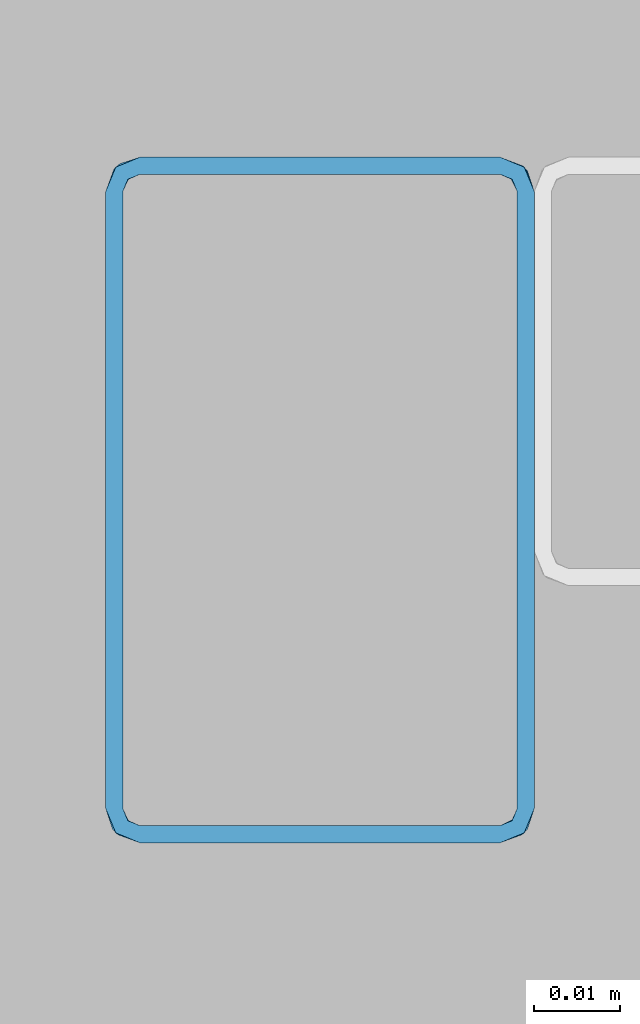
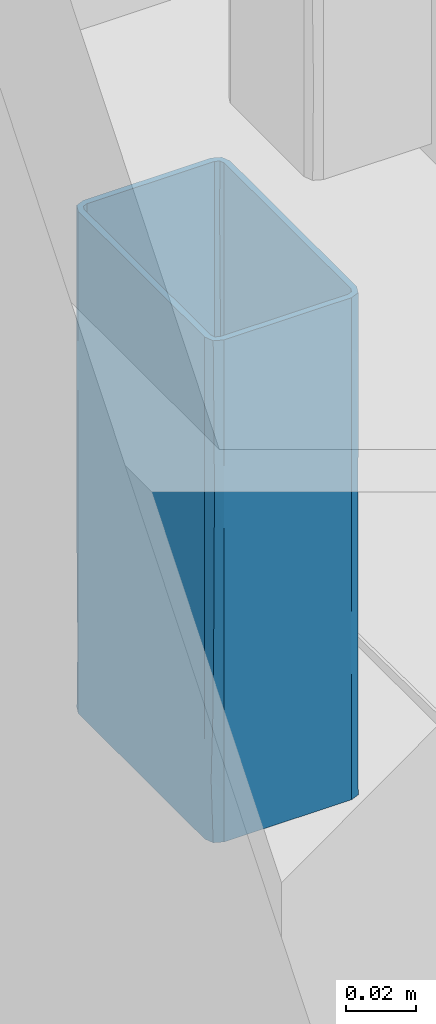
# One storey, part 136 of 186: 1 beam.
"""IFC4X3_ADD2 building model written with IfcOpenShell, lengths in millimetres."""

from ifc_helpers import new_model, si_unit, direction, frame, origin_with_axes, place, context, subcontext, project, spatial, polygons, element, save


model = new_model("IFC4X3_ADD2")

# Units and contexts
model_context = context("Model", 3, precision=1e-05, world=origin_with_axes(), true_north=direction((0.0, 1.0)))
body_context = subcontext(model_context, "Body", "Model", "MODEL_VIEW")
ifc_project = project(units=[si_unit("LENGTHUNIT", "METRE", prefix="MILLI"), si_unit("AREAUNIT", "SQUARE_METRE"), si_unit("VOLUMEUNIT", "CUBIC_METRE"), si_unit("PLANEANGLEUNIT", "RADIAN"), si_unit("TIMEUNIT", "SECOND"), si_unit("MASSUNIT", "GRAM")], contexts=[model_context])

# Site, building, storey
site_placement = place(None, origin_with_axes())
site = spatial("IfcSite", under=ifc_project, at=site_placement, Name="Site", CompositionType="ELEMENT")
building_placement = place(site_placement, origin_with_axes())
building = spatial("IfcBuilding", under=site, at=building_placement, Name="IFC Building Story")
storey_placement = place(building_placement, frame((0.0, 0.0, 4370.0), z_axis=(0.0, 0.0, 1.0), x_axis=(1.0, 0.0, 0.0)))
storey = spatial("IfcBuildingStorey", under=building, at=storey_placement, Name="ETAGE 10 (1)", Elevation=4370.0)

# Beam
beam_placement = place(storey_placement, frame((0.0, 0.0, -4370.0), z_axis=(0.0, 0.0, 1.0), x_axis=(1.0, 0.0, 0.0)))
element("IfcBeam", 1, at=beam_placement, inside=storey, Name="PS9", ObjectType="K50*80*2", context=body_context, shape_type="Tessellation", body=[
    polygons([(33263.18769887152, -14300.99999267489, 7529.59861931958), (33261.18769887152, -14300.99999267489, 7529.59861931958), (33263.77348530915, -14302.41420623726, 7529.59861931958), (33261.18769887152, -14228.99999267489, 7529.59861931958), (33263.18769887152, -14228.99999267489, 7529.59861931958), (33263.77348530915, -14227.58577911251, 7529.59861931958), (33262.35927174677, -14226.17156555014, 7529.59861931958), (33265.18769887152, -14224.99999267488, 7529.59861931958), (33265.18769887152, -14226.99999267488, 7529.59861931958), (33307.18769887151, -14226.99999267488, 7529.59861931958), (33307.18769887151, -14224.99999267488, 7529.59861931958), (33308.60191243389, -14227.58577911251, 7529.59861931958), (33310.01612599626, -14226.17156555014, 7529.59861931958), (33311.18769887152, -14228.99999267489, 7529.59861931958), (33309.18769887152, -14228.99999267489, 7529.59861931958), (33309.18769887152, -14300.99999267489, 7529.59861931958), (33311.18769887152, -14300.99999267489, 7529.59861931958), (33308.60191243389, -14302.41420623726, 7529.59861931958), (33310.01612599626, -14303.82841979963, 7529.59861931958), (33307.18769887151, -14304.99999267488, 7529.59861931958), (33307.18769887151, -14302.99999267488, 7529.59861931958), (33265.18769887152, -14304.99999267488, 7529.59861931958), (33265.18769887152, -14302.99999267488, 7529.59861931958), (33262.35927174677, -14303.82841979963, 7529.59861931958), (33309.18769887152, -14300.99999267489, 7355.21861931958), (33311.18769887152, -14300.99999267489, 7355.21861931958), (33308.60191243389, -14302.41420623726, 7355.21861931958), (33311.18769887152, -14228.99999267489, 7355.21861931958), (33309.18769887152, -14228.99999267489, 7355.21861931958), (33308.60191243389, -14227.58577911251, 7355.21861931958), (33310.01612599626, -14226.17156555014, 7355.21861931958), (33307.18769887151, -14224.99999267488, 7355.21861931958), (33307.18769887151, -14226.99999267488, 7355.21861931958), (33265.18769887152, -14226.99999267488, 7355.21861931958), (33265.18769887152, -14224.99999267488, 7355.21861931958), (33263.77348530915, -14227.58577911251, 7355.21861931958), (33262.35927174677, -14226.17156555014, 7355.21861931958), (33261.18769887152, -14228.99999267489, 7355.21861931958), (33263.18769887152, -14228.99999267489, 7355.21861931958), (33263.18769887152, -14300.99999267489, 7355.21861931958), (33261.18769887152, -14300.99999267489, 7355.21861931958), (33263.77348530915, -14302.41420623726, 7355.21861931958), (33262.35927174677, -14303.82841979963, 7355.21861931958), (33265.18769887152, -14304.99999267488, 7355.21861931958), (33265.18769887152, -14302.99999267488, 7355.21861931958), (33307.18769887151, -14304.99999267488, 7355.21861931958), (33307.18769887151, -14302.99999267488, 7355.21861931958), (33310.01612599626, -14303.82841979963, 7355.21861931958), (33261.18769887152, -14228.99999267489, 7512.14009673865), (33261.18769887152, -14228.99999267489, 7486.003617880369), (33261.18769887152, -14228.99999267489, 7464.206120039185), (33261.18769887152, -14228.99999267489, 7442.408619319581), (33261.18769887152, -14228.99999267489, 7420.611118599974), (33261.18769887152, -14228.99999267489, 7398.813620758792), (33261.18769887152, -14228.99999267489, 7372.677141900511), (33261.18769887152, -14300.99999267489, 7390.135664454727), (33261.18769887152, -14300.99999267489, 7407.491574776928), (33261.18769887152, -14300.99999267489, 7433.628051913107), (33261.18769887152, -14300.99999267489, 7459.764529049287), (33261.18769887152, -14300.99999267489, 7477.223052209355), (33261.18769887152, -14300.99999267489, 7494.681574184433), (33262.27682427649, -14303.74349574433, 7398.813621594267), (33265.18769887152, -14304.99999267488, 7420.611119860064), (33262.48911275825, -14303.95255647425, 7431.509871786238), (33265.18769887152, -14304.99999267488, 7372.677140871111), (33261.94732121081, -14303.34519045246, 7376.936876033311), (33262.53256876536, -14303.99169522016, 7499.071858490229), (33265.18769887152, -14304.99999267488, 7442.408619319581), (33265.18769887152, -14304.99999267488, 7512.14009776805), (33262.55784567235, -14304.01393895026, 7456.068339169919), (33265.18769887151, -14304.99999267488, 7398.813618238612), (33262.62462266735, -14304.07092744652, 7477.57424630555), (33265.18769887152, -14304.99999267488, 7486.00362040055), (33265.18769887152, -14304.99999267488, 7464.206118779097), (33307.18769887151, -14304.99999267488, 7372.677142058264), (33307.18769887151, -14304.99999267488, 7398.813619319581), (33307.18769887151, -14304.99999267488, 7420.611119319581), (33307.18769887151, -14304.99999267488, 7442.408619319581), (33307.18769887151, -14304.99999267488, 7464.20611931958), (33307.18769887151, -14304.99999267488, 7486.00361931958), (33307.18769887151, -14304.99999267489, 7512.140096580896), (33311.18769887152, -14300.99999267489, 7390.135665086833), (33309.84282889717, -14303.9916952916, 7385.745384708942), (33310.09857345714, -14303.7434957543, 7486.00362096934), (33309.88628500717, -14303.95255645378, 7453.307371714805), (33311.18769887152, -14300.99999267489, 7477.325664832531), (33311.18769887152, -14300.99999267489, 7494.681573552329), (33310.42807649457, -14303.34519050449, 7507.880364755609), (33309.81755215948, -14304.01393887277, 7428.748906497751), (33311.18769887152, -14300.99999267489, 7425.052710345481), (33311.18769887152, -14300.99999267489, 7451.189187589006), (33309.7507753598, -14304.07092720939, 7407.242998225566), (33311.18769887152, -14300.99999267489, 7407.594187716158), (33311.18769887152, -14228.99999267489, 7390.135664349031), (33311.18769887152, -14228.99999267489, 7416.272141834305), (33311.18769887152, -14228.99999267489, 7442.408619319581), (33311.18769887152, -14228.99999267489, 7464.206119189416), (33311.18769887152, -14228.99999267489, 7486.003619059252), (33311.18769887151, -14228.99999267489, 7512.140096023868), (33310.17940139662, -14226.344862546, 7499.071859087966), (33310.03562467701, -14226.19119958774, 7472.548605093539), (33307.18769887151, -14224.99999267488, 7494.681574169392), (33310.0161261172, -14226.17156567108, 7398.813623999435), (33310.41784628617, -14226.64072421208, 7377.016122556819), (33309.8417820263, -14226.00736128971, 7446.696292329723), (33309.91410073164, -14226.07309450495, 7422.749377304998), (33307.18769887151, -14224.99999267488, 7433.628050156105), (33307.18769887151, -14224.99999267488, 7390.135664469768), (33307.18769887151, -14224.99999267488, 7407.4915727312), (33307.18769887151, -14224.99999267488, 7459.764527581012), (33265.18769887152, -14224.99999267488, 7390.135665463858), (33265.18769887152, -14224.99999267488, 7407.491574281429), (33265.18769887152, -14224.99999267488, 7433.628051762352), (33265.18769887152, -14224.99999267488, 7459.764529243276), (33265.18769887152, -14224.99999267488, 7477.223051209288), (33265.18769887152, -14224.99999267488, 7494.681574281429), (33262.44419583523, -14226.08911804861, 7398.813622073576), (33262.2351350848, -14226.30140654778, 7431.509872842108), (33262.84250110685, -14225.75961500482, 7376.93687648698), (33262.19599633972, -14226.34486255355, 7499.071858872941), (33262.17375261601, -14226.37013945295, 7456.068339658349), (33262.11676412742, -14226.43691643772, 7477.574246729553), (33265.18769887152, -14226.99999267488, 7480.218460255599), (33263.77348535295, -14227.5857790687, 7486.390980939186), (33263.77348534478, -14227.58577907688, 7473.185613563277), (33263.761337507, -14227.5980321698, 7386.677759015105), (33263.69169343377, -14227.67260134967, 7373.73618015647), (33265.18769887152, -14226.99999267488, 7374.123539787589), (33263.18769887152, -14228.99999267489, 7420.611119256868), (33263.18769887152, -14228.99999267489, 7409.712369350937), (33263.73129899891, -14227.62926315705, 7415.161746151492), (33263.75107338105, -14227.6085519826, 7449.355862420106), (33263.18769887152, -14228.99999267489, 7442.408619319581), (33263.90134918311, -14227.46855397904, 7438.435819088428), (33265.18769887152, -14226.99999267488, 7455.528380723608), (33263.84725054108, -14227.51567523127, 7461.21910020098), (33265.18769887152, -14226.99999267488, 7393.028460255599), (33263.18769887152, -14228.99999267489, 7367.563659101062), (33263.18769887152, -14228.99999267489, 7517.253579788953), (33263.18769887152, -14228.99999267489, 7492.56350022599), (33263.18769887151, -14228.99999267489, 7480.218460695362), (33265.18769887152, -14226.99999267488, 7492.563500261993), (33263.82148151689, -14227.53935920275, 7498.73602044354), (33263.84133664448, -14227.5210373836, 7398.499702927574), (33263.18769887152, -14228.99999267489, 7398.813619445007), (33265.18769887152, -14226.99999267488, 7517.253579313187), (33263.77348533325, -14227.5857790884, 7511.081059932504), (33265.18769887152, -14226.99999267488, 7504.908539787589), (33263.18769887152, -14228.99999267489, 7504.908540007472), (33263.18769887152, -14228.99999267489, 7379.908698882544), (33263.18769887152, -14228.99999267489, 7461.313540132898), (33265.18769887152, -14226.99999267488, 7467.873420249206), (33265.18769887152, -14226.99999267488, 7411.933380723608), (33265.18769887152, -14226.99999267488, 7430.838301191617), (33263.68995856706, -14227.67455916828, 7427.620743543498), (33263.18769887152, -14228.99999267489, 7431.50986941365), (33265.18769887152, -14226.99999267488, 7443.183341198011), (33307.18769887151, -14226.99999267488, 7367.56365934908), (33307.18769887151, -14226.99999267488, 7377.016119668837), (33307.18769887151, -14226.99999267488, 7387.91486956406), (33307.18769887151, -14226.99999267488, 7398.813619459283), (33307.18769887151, -14226.99999267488, 7409.712369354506), (33307.18769887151, -14226.99999267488, 7420.611119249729), (33307.18769887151, -14226.99999267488, 7431.509869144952), (33307.18769887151, -14226.99999267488, 7442.408619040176), (33307.18769887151, -14226.99999267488, 7453.307368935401), (33307.18769887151, -14226.99999267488, 7464.206118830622), (33307.18769887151, -14226.99999267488, 7475.104868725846), (33307.18769887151, -14226.99999267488, 7486.003619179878), (33307.18769887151, -14226.99999267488, 7504.90853981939), (33307.18769887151, -14226.99999267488, 7517.25357984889), (33308.49895586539, -14227.48982543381, 7405.576373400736), (33308.53725077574, -14227.52394739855, 7393.364245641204), (33308.57794189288, -14227.56220814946, 7448.655924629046), (33308.68967101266, -14227.67935658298, 7461.088047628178), (33308.4073444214, -14227.41491705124, 7382.780985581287), (33309.18769887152, -14228.99999267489, 7510.693698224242), (33308.51509022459, -14227.50398726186, 7511.081060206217), (33309.18769887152, -14228.99999267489, 7367.563658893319), (33309.18769887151, -14228.99999267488, 7404.598778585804), (33309.18769887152, -14228.99999267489, 7392.253739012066), (33308.67085384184, -14227.658258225, 7423.116339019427), (33309.18769887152, -14228.99999267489, 7379.908698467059), (33308.60191241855, -14227.58577909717, 7372.289889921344), (33308.5896593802, -14227.5736313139, 7498.139482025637), (33308.61448330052, -14227.5984627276, 7436.065234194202), (33309.18769887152, -14228.99999267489, 7429.288858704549), (33309.18769887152, -14228.99999267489, 7416.943818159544), (33309.18769887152, -14228.99999267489, 7441.633898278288), (33309.18769887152, -14228.99999267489, 7491.788778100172), (33308.66517873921, -14227.65201150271, 7480.554245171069), (33309.18769887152, -14228.99999267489, 7472.8838579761), (33309.18769887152, -14228.99999267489, 7453.978937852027), (33309.18769887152, -14300.99999267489, 7367.563658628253), (33309.18769887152, -14300.99999267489, 7377.016119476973), (33309.18769887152, -14300.99999267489, 7387.9148689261), (33309.18769887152, -14300.99999267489, 7398.813618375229), (33309.18769887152, -14300.99999267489, 7409.712369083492), (33309.18769887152, -14300.99999267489, 7420.61111853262), (33309.18769887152, -14300.99999267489, 7431.509867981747), (33309.18769887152, -14300.99999267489, 7442.408618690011), (33309.18769887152, -14300.99999267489, 7453.307369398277), (33309.18769887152, -14300.99999267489, 7464.206118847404), (33309.18769887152, -14300.99999267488, 7475.104868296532), (33309.18769887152, -14300.99999267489, 7486.003619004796), (33309.18769887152, -14300.99999267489, 7504.908540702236), (33309.18769887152, -14300.99999267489, 7517.253580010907), (33308.69786612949, -14302.3112496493, 7405.576373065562), (33308.66374415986, -14302.34954456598, 7393.364245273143), (33308.62548341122, -14302.39023568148, 7448.65592429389), (33308.50833497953, -14302.50196480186, 7461.088047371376), (33308.77277449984, -14302.21963821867, 7382.780985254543), (33307.18769887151, -14302.99999267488, 7510.693698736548), (33308.68370428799, -14302.32738402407, 7511.081060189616), (33307.18769887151, -14302.99999267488, 7367.563659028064), (33307.18769887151, -14302.99999267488, 7404.598778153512), (33307.18769887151, -14302.99999267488, 7392.25373844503), (33308.52943334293, -14302.48314762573, 7423.116338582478), (33308.60191244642, -14302.41420622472, 7372.289889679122), (33308.61406023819, -14302.40195317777, 7498.139481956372), (33308.58922884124, -14302.42677708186, 7436.065233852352), (33307.18769887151, -14302.99999267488, 7379.908698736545), (33307.18769887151, -14302.99999267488, 7429.288857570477), (33307.18769887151, -14302.99999267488, 7416.943817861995), (33307.18769887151, -14302.99999267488, 7441.633897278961), (33307.18769887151, -14302.99999267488, 7491.788778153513), (33308.53568005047, -14302.4774725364, 7480.554245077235), (33307.18769887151, -14302.99999267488, 7472.883857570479), (33307.18769887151, -14302.99999267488, 7453.978936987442), (33265.18769887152, -14302.99999267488, 7367.563659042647), (33265.18769887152, -14302.99999267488, 7379.908698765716), (33265.18769887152, -14302.99999267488, 7392.253738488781), (33265.18769887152, -14302.99999267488, 7404.598778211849), (33265.18769887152, -14302.99999267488, 7416.943817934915), (33265.18769887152, -14302.99999267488, 7429.288857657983), (33265.18769887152, -14302.99999267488, 7441.633897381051), (33265.18769887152, -14302.99999267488, 7453.978937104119), (33265.18769887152, -14302.99999267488, 7472.883857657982), (33265.18769887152, -14302.99999267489, 7491.788778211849), (33265.18769887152, -14302.99999267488, 7510.693698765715), (33263.76133749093, -14302.40195316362, 7498.139482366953), (33263.69169344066, -14302.32738400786, 7511.081060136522), (33263.84725044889, -14302.48431003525, 7423.598142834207), (33263.75107328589, -14302.39143326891, 7435.461379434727), (33263.77348535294, -14302.41420628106, 7373.736182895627), (33263.77348537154, -14302.41420629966, 7386.941548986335), (33263.18769887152, -14300.99999267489, 7379.908699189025), (33263.18769887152, -14300.99999267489, 7464.20611964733), (33263.18769887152, -14300.99999267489, 7475.104869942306), (33263.73129892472, -14302.3707221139, 7469.655496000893), (33263.18769887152, -14300.99999267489, 7517.253579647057), (33263.18769887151, -14300.99999267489, 7367.563659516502), (33263.90134900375, -14302.53143122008, 7446.381423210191), (33263.84133657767, -14302.47894790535, 7486.317539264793), (33263.18769887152, -14300.99999267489, 7486.003619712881), (33263.18769887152, -14300.99999267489, 7392.253738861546), (33263.7103880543, -14302.34815911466, 7398.896110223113), (33263.18769887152, -14300.99999267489, 7504.908539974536), (33263.76900637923, -14302.40971307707, 7410.853040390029), (33263.68995852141, -14302.32542612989, 7457.196499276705), (33263.18769887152, -14300.99999267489, 7453.307369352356), (33263.18769887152, -14300.99999267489, 7442.40861958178), (33263.18769887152, -14300.99999267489, 7423.503699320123), (33263.18769887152, -14300.99999267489, 7404.598779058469)], [[[1, 2, 3]], [[2, 1, 4]], [[5, 4, 1]], [[6, 4, 5]], [[7, 4, 6]], [[6, 8, 7]], [[6, 9, 8]], [[8, 9, 10]], [[10, 11, 8]], [[10, 12, 11]], [[11, 12, 13]], [[14, 13, 12]], [[14, 12, 15]], [[14, 15, 16]], [[16, 17, 14]], [[18, 17, 16]], [[17, 18, 19]], [[18, 20, 19]], [[21, 20, 18]], [[20, 21, 22]], [[23, 22, 21]], [[3, 22, 23]], [[22, 3, 24]], [[3, 2, 24]], [[25, 26, 27]], [[26, 25, 28]], [[29, 28, 25]], [[30, 28, 29]], [[31, 28, 30]], [[30, 32, 31]], [[30, 33, 32]], [[32, 33, 34]], [[34, 35, 32]], [[34, 36, 35]], [[35, 36, 37]], [[38, 37, 36]], [[38, 36, 39]], [[38, 39, 40]], [[40, 41, 38]], [[42, 41, 40]], [[41, 42, 43]], [[42, 44, 43]], [[45, 44, 42]], [[44, 45, 46]], [[47, 46, 45]], [[27, 46, 47]], [[46, 27, 48]], [[27, 26, 48]], [[55, 38, 41]], [[55, 41, 56]], [[56, 57, 54]], [[56, 54, 55]], [[57, 58, 53]], [[57, 53, 54]], [[58, 52, 53]], [[58, 59, 51]], [[58, 51, 52]], [[60, 61, 50]], [[50, 51, 59]], [[50, 59, 60]], [[61, 49, 50]], [[61, 2, 4]], [[61, 4, 49]], [[62, 63, 64]], [[65, 62, 66]], [[2, 61, 67]], [[64, 63, 68]], [[69, 22, 24]], [[43, 44, 65]], [[62, 56, 66]], [[70, 59, 58]], [[57, 56, 62]], [[71, 63, 62, 65]], [[24, 2, 67]], [[59, 72, 61, 60]], [[41, 43, 66]], [[58, 64, 70]], [[64, 57, 62]], [[73, 69, 67]], [[64, 68, 70]], [[64, 58, 57]], [[70, 68, 74]], [[73, 67, 72]], [[41, 66, 56]], [[65, 66, 43]], [[24, 67, 69]], [[72, 59, 70]], [[72, 67, 61]], [[72, 74, 73]], [[74, 72, 70]], [[65, 44, 46]], [[65, 46, 75]], [[75, 76, 71]], [[75, 71, 65]], [[76, 77, 63]], [[76, 63, 71]], [[77, 78, 68]], [[77, 68, 63]], [[78, 79, 74]], [[78, 74, 68]], [[79, 80, 73]], [[79, 73, 74]], [[80, 81, 69]], [[80, 69, 73]], [[81, 20, 22]], [[81, 22, 69]], [[26, 82, 83]], [[80, 79, 84, 81]], [[85, 84, 79]], [[86, 87, 84]], [[85, 79, 78]], [[81, 84, 88]], [[84, 87, 88]], [[48, 26, 83]], [[89, 90, 91]], [[90, 92, 82, 93]], [[17, 19, 88]], [[91, 85, 89]], [[75, 83, 76]], [[85, 86, 84]], [[75, 46, 48]], [[19, 20, 81]], [[85, 78, 89]], [[85, 91, 86]], [[89, 78, 77]], [[76, 83, 92]], [[17, 88, 87]], [[81, 88, 19]], [[48, 83, 75]], [[92, 90, 89]], [[92, 83, 82]], [[92, 77, 76]], [[77, 92, 89]], [[82, 26, 28]], [[82, 28, 94]], [[94, 95, 93]], [[94, 93, 82]], [[95, 90, 93]], [[95, 96, 91]], [[95, 91, 90]], [[97, 98, 86]], [[97, 86, 91]], [[91, 96, 97]], [[98, 87, 86]], [[99, 14, 17]], [[99, 17, 87]], [[87, 98, 99]], [[99, 98, 100]], [[101, 102, 100]], [[103, 94, 104]], [[11, 13, 100]], [[31, 104, 28]], [[105, 106, 107]], [[108, 109, 103]], [[97, 105, 101]], [[13, 99, 100]], [[32, 108, 104]], [[101, 105, 110]], [[103, 104, 108]], [[106, 109, 107]], [[13, 14, 99]], [[110, 105, 107]], [[95, 103, 106]], [[95, 94, 103]], [[106, 96, 95]], [[102, 101, 110]], [[97, 96, 105]], [[106, 105, 96]], [[109, 106, 103]], [[101, 100, 98]], [[100, 102, 11]], [[28, 104, 94]], [[104, 31, 32]], [[101, 98, 97]], [[108, 32, 35]], [[108, 35, 111]], [[111, 112, 109]], [[111, 109, 108]], [[112, 113, 107]], [[112, 107, 109]], [[113, 114, 110]], [[113, 110, 107]], [[115, 116, 102]], [[102, 110, 114]], [[102, 114, 115]], [[116, 8, 11]], [[116, 11, 102]], [[117, 53, 118]], [[55, 117, 119]], [[8, 116, 120]], [[118, 53, 52]], [[49, 4, 7]], [[37, 38, 55]], [[117, 111, 119]], [[121, 114, 113]], [[112, 111, 117]], [[54, 53, 117, 55]], [[7, 8, 120]], [[114, 122, 116, 115]], [[35, 37, 119]], [[113, 118, 121]], [[118, 112, 117]], [[50, 49, 120]], [[118, 52, 121]], [[118, 113, 112]], [[121, 52, 51]], [[50, 120, 122]], [[35, 119, 111]], [[55, 119, 37]], [[7, 120, 49]], [[122, 114, 121]], [[122, 120, 116]], [[122, 51, 50]], [[51, 122, 121]], [[123, 124, 125]], [[126, 127, 128]], [[129, 130, 131]], [[132, 133, 134]], [[132, 135, 136]], [[126, 128, 137]], [[138, 39, 36]], [[6, 5, 139]], [[36, 127, 138]], [[125, 124, 140, 141]], [[142, 143, 124]], [[144, 145, 126]], [[142, 124, 123]], [[146, 147, 148]], [[140, 143, 149]], [[36, 34, 128]], [[146, 9, 6]], [[138, 127, 150]], [[147, 6, 139]], [[6, 147, 146]], [[143, 147, 149]], [[143, 142, 148]], [[149, 147, 139]], [[132, 151, 133]], [[152, 123, 125]], [[125, 141, 151]], [[126, 150, 127]], [[128, 127, 36]], [[126, 145, 150]], [[131, 153, 154]], [[124, 143, 140]], [[147, 143, 148]], [[130, 145, 144]], [[135, 152, 136]], [[144, 126, 137]], [[155, 131, 154]], [[144, 137, 153]], [[155, 129, 131]], [[144, 131, 130]], [[153, 131, 144]], [[156, 129, 155]], [[132, 134, 157]], [[135, 132, 157]], [[154, 134, 155]], [[151, 132, 136]], [[136, 125, 151]], [[125, 136, 152]], [[157, 134, 154]], [[133, 156, 134]], [[156, 155, 134]], [[158, 159, 128]], [[128, 34, 33]], [[128, 33, 158]], [[159, 160, 137]], [[159, 137, 128]], [[161, 162, 153]], [[161, 153, 137]], [[137, 160, 161]], [[163, 164, 154]], [[163, 154, 153]], [[153, 162, 163]], [[164, 165, 157]], [[164, 157, 154]], [[165, 166, 135]], [[165, 135, 157]], [[166, 167, 152]], [[166, 152, 135]], [[167, 168, 123]], [[167, 123, 152]], [[168, 169, 142]], [[168, 142, 123]], [[169, 170, 148]], [[169, 148, 142]], [[170, 171, 146]], [[170, 146, 148]], [[171, 10, 9]], [[171, 9, 146]], [[172, 161, 173]], [[166, 174, 175]], [[160, 159, 176]], [[177, 12, 178]], [[15, 12, 177]], [[30, 29, 179]], [[180, 173, 181]], [[172, 182, 162]], [[179, 183, 184]], [[170, 185, 178]], [[165, 186, 174]], [[170, 178, 171]], [[184, 159, 158]], [[158, 33, 30]], [[12, 10, 171]], [[178, 185, 177]], [[184, 183, 176]], [[30, 184, 158]], [[179, 184, 30]], [[160, 176, 173]], [[160, 173, 161]], [[180, 172, 173]], [[183, 181, 176]], [[187, 186, 182]], [[163, 162, 182, 164]], [[188, 182, 172]], [[187, 182, 188]], [[172, 180, 188]], [[186, 164, 182]], [[181, 173, 176]], [[186, 189, 174]], [[171, 178, 12]], [[190, 177, 185]], [[190, 185, 191]], [[185, 170, 169]], [[167, 166, 175, 168]], [[168, 191, 169]], [[191, 175, 192]], [[175, 174, 193]], [[175, 193, 192]], [[175, 191, 168]], [[169, 191, 185]], [[191, 192, 190]], [[193, 174, 189]], [[186, 187, 189]], [[184, 176, 159]], [[162, 161, 172]], [[166, 165, 174]], [[186, 165, 164]], [[179, 29, 25]], [[179, 25, 194]], [[194, 195, 183]], [[194, 183, 179]], [[195, 196, 181]], [[195, 181, 183]], [[197, 198, 180]], [[180, 181, 196]], [[180, 196, 197]], [[198, 199, 188]], [[198, 188, 180]], [[199, 200, 187]], [[199, 187, 188]], [[200, 201, 189]], [[200, 189, 187]], [[201, 202, 193]], [[201, 193, 189]], [[203, 204, 192]], [[192, 193, 202]], [[192, 202, 203]], [[204, 205, 190]], [[204, 190, 192]], [[205, 206, 177]], [[205, 177, 190]], [[207, 16, 15]], [[207, 15, 177]], [[177, 206, 207]], [[208, 197, 209]], [[202, 210, 211]], [[196, 195, 212]], [[213, 18, 214]], [[21, 18, 213]], [[27, 47, 215]], [[216, 209, 217]], [[208, 218, 198]], [[27, 215, 219]], [[206, 220, 214]], [[201, 221, 210]], [[222, 212, 219]], [[206, 214, 207]], [[194, 27, 219, 195]], [[194, 25, 27]], [[18, 16, 207]], [[214, 220, 213]], [[219, 215, 222]], [[196, 212, 209]], [[196, 209, 197]], [[216, 208, 209]], [[222, 217, 212]], [[223, 221, 218]], [[199, 198, 218, 200]], [[224, 218, 208]], [[223, 218, 224]], [[208, 216, 224]], [[221, 200, 218]], [[217, 209, 212]], [[221, 225, 210]], [[207, 214, 18]], [[226, 213, 220]], [[226, 220, 227]], [[220, 206, 205]], [[203, 202, 211, 204]], [[204, 227, 205]], [[227, 211, 228]], [[211, 210, 229]], [[211, 229, 228]], [[211, 227, 204]], [[205, 227, 220]], [[227, 228, 226]], [[229, 210, 225]], [[221, 223, 225]], [[219, 212, 195]], [[198, 197, 208]], [[202, 201, 210]], [[221, 201, 200]], [[215, 47, 45]], [[215, 45, 230]], [[230, 231, 222]], [[230, 222, 215]], [[231, 232, 217]], [[231, 217, 222]], [[232, 233, 216]], [[232, 216, 217]], [[233, 234, 224]], [[233, 224, 216]], [[234, 235, 223]], [[234, 223, 224]], [[235, 236, 225]], [[235, 225, 223]], [[236, 237, 229]], [[236, 229, 225]], [[237, 238, 228]], [[237, 228, 229]], [[238, 239, 226]], [[238, 226, 228]], [[239, 240, 213]], [[239, 213, 226]], [[240, 23, 21]], [[240, 21, 213]], [[241, 242, 240]], [[243, 244, 235]], [[231, 230, 245]], [[246, 245, 247]], [[235, 244, 236]], [[248, 249, 250]], [[251, 1, 3]], [[40, 252, 42]], [[240, 239, 241]], [[253, 236, 244]], [[3, 242, 251]], [[254, 255, 241]], [[246, 256, 257]], [[42, 245, 230]], [[3, 23, 240]], [[230, 45, 42]], [[251, 242, 258]], [[252, 247, 245]], [[42, 252, 245]], [[231, 245, 246]], [[232, 231, 246]], [[257, 259, 233]], [[241, 258, 242]], [[240, 242, 3]], [[241, 255, 258]], [[250, 238, 237]], [[249, 255, 254]], [[233, 232, 257]], [[246, 247, 256]], [[254, 241, 239]], [[260, 250, 237]], [[254, 239, 238]], [[260, 248, 250]], [[254, 250, 249]], [[238, 250, 254]], [[261, 248, 260]], [[262, 253, 244]], [[244, 263, 262]], [[237, 253, 260]], [[243, 259, 263]], [[263, 244, 243]], [[264, 263, 259]], [[243, 234, 259]], [[234, 233, 259]], [[243, 235, 234]], [[257, 264, 259]], [[264, 257, 256]], [[232, 246, 257]], [[236, 253, 237]], [[262, 261, 253]], [[261, 260, 253]], [[252, 40, 39]], [[252, 39, 138]], [[138, 150, 247]], [[138, 247, 252]], [[150, 145, 256]], [[150, 256, 247]], [[145, 130, 264]], [[145, 264, 256]], [[130, 129, 263]], [[130, 263, 264]], [[156, 133, 262]], [[156, 262, 263]], [[263, 129, 156]], [[133, 151, 261]], [[133, 261, 262]], [[151, 248, 261]], [[151, 141, 249]], [[151, 249, 248]], [[141, 255, 249]], [[140, 149, 258]], [[140, 258, 255]], [[255, 141, 140]], [[149, 139, 251]], [[149, 251, 258]], [[139, 5, 1]], [[139, 1, 251]]]),
])

save(model, "model.ifc")
